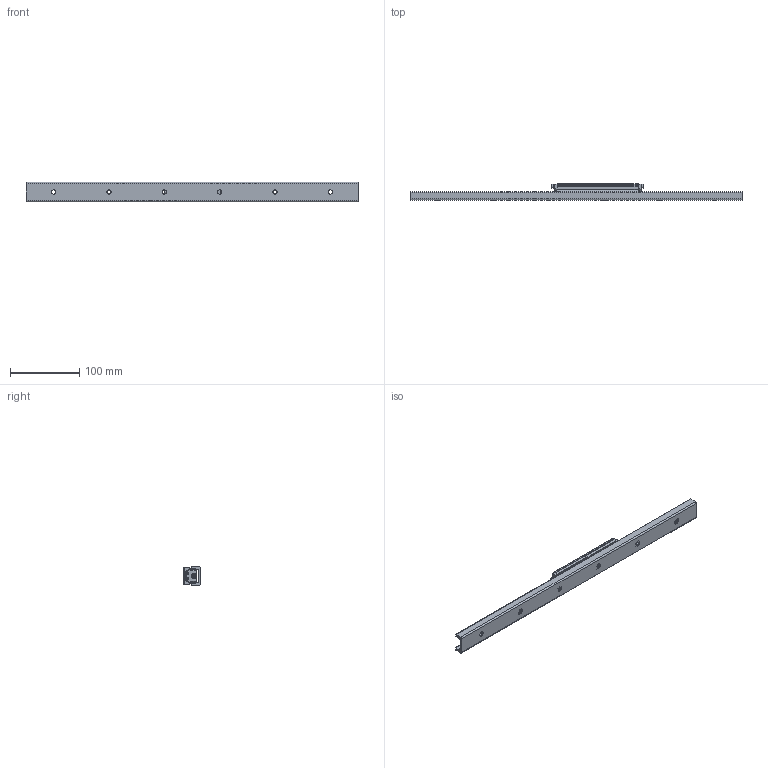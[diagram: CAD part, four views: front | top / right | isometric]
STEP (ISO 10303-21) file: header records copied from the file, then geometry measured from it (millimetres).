
FILE_DESCRIPTION(/* description */ ('STEP AP214'),/* implementation_level */ '2;1');
FILE_NAME(/* name */ 'AWG28RB1SS+480L(2000)',/* time_stamp */ '2024-10-17T13:37:39+02:00',/* author */ ('License CC BY-ND 4.0'),/* organization */ ('CADENAS'),/* preprocessor_version */ 'ST-DEVELOPER v19.3',/* originating_system */ 'PARTsolutions',/* authorisation */ ' ');
FILE_SCHEMA (('AUTOMOTIVE_DESIGN {1 0 10303 214 3 1 1}'));
Length unit declared in the file: millimetre
Products named in the file (5): AWG28RB1SS+480L(2000); AWG28RB1SS+480L A-M4F 200 0_rail; AWG28RB1SS+480L_carriage; AWG28RB_SSL_seal; AWG-RA_A-M4F_grease_nipple
Assembly tree (6 placements, depth 2):
  AWG28RB1SS+480L(2000)
    AWG28RB1SS+480L A-M4F 200 0_rail
    AWG28RB1SS+480L_carriage
    AWG28RB_SSL_seal  x2
    AWG-RA_A-M4F_grease_nipple  x2
Bounding box: 480 x 24 x 28 mm (x, y, z)
Volume: 114492 mm3; surface area: 75012.7 mm2
Topology: 6 solids, 10 shells, 988 faces, 2454 edges, 1579 vertices
Faces by surface type: plane 540, cylinder 306, cone 92, torus 42, sphere 4, bspline 4
Full cylindrical faces by diameter (mm): 2 x8, 2.46 x4, 2.5 x2, 3 x4, 3.2 x4, 3.3 x2, 4 x2, 4.08 x4, 4.13 x4, 4.134 x4, 4.2 x2, 4.3 x2, 5 x4, 5.3 x4, 5.5 x8, 5.9 x2, 6 x12, 8 x4, 8.5 x4, 9.5 x6, 10 x4, 11 x4, 13.95 x2, 14 x4, 14.88 x8, 18.92 x8
Entity records: 23595 total; most frequent: CARTESIAN_POINT 4374, DIRECTION 4088, ORIENTED_EDGE 3676, EDGE_CURVE 1838, AXIS2_PLACEMENT_3D 1545, VERTEX_POINT 1289, FACE_BOUND 1095, EDGE_LOOP 1085
